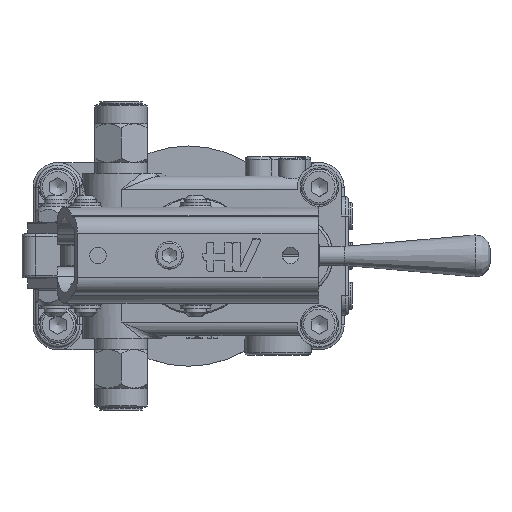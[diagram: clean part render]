
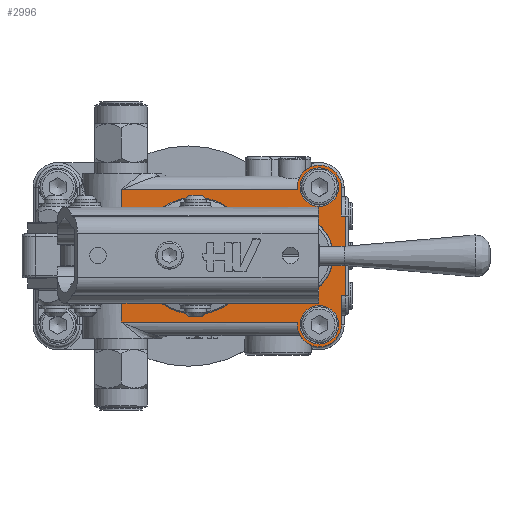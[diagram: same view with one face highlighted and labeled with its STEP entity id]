
A CAD part, top view. The second image highlights one B-rep face of the part: STEP entity #2996.
In plain terms, the highlighted planar face has unit normal (0, 0, 1).
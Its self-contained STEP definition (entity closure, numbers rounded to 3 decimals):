
#2803=CARTESIAN_POINT('',(104.,34.,43.));
#2804=DIRECTION('',(0.0,0.0,1.0));
#2805=DIRECTION('',(1.0,0.0,0.0));
#2806=AXIS2_PLACEMENT_3D('',#2803,#2804,#2805);
#2807=PLANE('',#2806);
#2808=CARTESIAN_POINT('',(113.5,48.5,43.));
#2809=VERTEX_POINT('',#2808);
#2810=CARTESIAN_POINT('',(113.5,19.5,43.));
#2811=VERTEX_POINT('',#2810);
#2812=CARTESIAN_POINT('',(113.5,48.5,43.));
#2813=DIRECTION('',(0.0,-1.0,0.0));
#2814=VECTOR('',#2813,29.);
#2815=LINE('',#2812,#2814);
#2816=EDGE_CURVE('',#2809,#2811,#2815,.T.);
#2817=ORIENTED_EDGE('',*,*,#2816,.F.);
#2818=CARTESIAN_POINT('',(112.,48.5,43.));
#2819=VERTEX_POINT('',#2818);
#2820=CARTESIAN_POINT('',(112.,48.5,43.));
#2821=DIRECTION('',(1.0,0.0,0.0));
#2822=VECTOR('',#2821,1.5);
#2823=LINE('',#2820,#2822);
#2824=EDGE_CURVE('',#2819,#2809,#2823,.T.);
#2825=ORIENTED_EDGE('',*,*,#2824,.F.);
#2826=CARTESIAN_POINT('',(112.0,59.,43.));
#2827=VERTEX_POINT('',#2826);
#2828=CARTESIAN_POINT('',(112.0,59.,43.));
#2829=DIRECTION('',(0.0,-1.0,0.0));
#2830=VECTOR('',#2829,10.5);
#2831=LINE('',#2828,#2830);
#2832=EDGE_CURVE('',#2827,#2819,#2831,.T.);
#2833=ORIENTED_EDGE('',*,*,#2832,.F.);
#2834=CARTESIAN_POINT('',(96.,59.,43.));
#2835=VERTEX_POINT('',#2834);
#2836=CARTESIAN_POINT('',(104.,59.,43.));
#2837=DIRECTION('',(0.0,0.0,-1.0));
#2838=DIRECTION('',(1.0,0.0,0.0));
#2839=AXIS2_PLACEMENT_3D('',#2836,#2837,#2838);
#2840=CIRCLE('',#2839,8.0);
#2841=EDGE_CURVE('',#2835,#2827,#2840,.T.);
#2842=ORIENTED_EDGE('',*,*,#2841,.F.);
#2843=CARTESIAN_POINT('',(96.,58.,43.));
#2844=VERTEX_POINT('',#2843);
#2845=CARTESIAN_POINT('',(96.,58.,43.));
#2846=DIRECTION('',(0.0,1.0,0.0));
#2847=VECTOR('',#2846,1.);
#2848=LINE('',#2845,#2847);
#2849=EDGE_CURVE('',#2844,#2835,#2848,.T.);
#2850=ORIENTED_EDGE('',*,*,#2849,.F.);
#2851=CARTESIAN_POINT('',(32.,58.,43.));
#2852=VERTEX_POINT('',#2851);
#2853=CARTESIAN_POINT('',(96.,58.,43.));
#2854=DIRECTION('',(-1.0,0.0,0.0));
#2855=VECTOR('',#2854,64.);
#2856=LINE('',#2853,#2855);
#2857=EDGE_CURVE('',#2844,#2852,#2856,.T.);
#2858=ORIENTED_EDGE('',*,*,#2857,.T.);
#2859=CARTESIAN_POINT('',(32.,44.122,43.));
#2860=VERTEX_POINT('',#2859);
#2861=CARTESIAN_POINT('',(32.0,44.122,43.0));
#2862=DIRECTION('',(0.0,1.0,0.0));
#2863=VECTOR('',#2862,13.878);
#2864=LINE('',#2861,#2863);
#2865=EDGE_CURVE('',#2860,#2852,#2864,.T.);
#2866=ORIENTED_EDGE('',*,*,#2865,.F.);
#2867=CARTESIAN_POINT('',(33.732,41.0,43.));
#2868=VERTEX_POINT('',#2867);
#2869=CARTESIAN_POINT('',(33.732,41.0,43.));
#2870=CARTESIAN_POINT('',(33.732,41.528,43.));
#2871=CARTESIAN_POINT('',(33.438,42.767,43.));
#2872=CARTESIAN_POINT('',(32.582,43.719,43.));
#2873=CARTESIAN_POINT('',(32.,44.122,43.));
#2874=B_SPLINE_CURVE_WITH_KNOTS('',3,(#2869,#2870,#2871,#2872,#2873),.UNSPECIFIED.,.F.,.U.,(4,1,4),(2.696,2.855,3.066),.UNSPECIFIED.);
#2875=EDGE_CURVE('',#2868,#2860,#2874,.T.);
#2876=ORIENTED_EDGE('',*,*,#2875,.F.);
#2877=CARTESIAN_POINT('',(33.732,27.,43.));
#2878=VERTEX_POINT('',#2877);
#2879=CARTESIAN_POINT('',(33.732,27.,43.));
#2880=DIRECTION('',(0.0,1.0,0.0));
#2881=VECTOR('',#2880,14.);
#2882=LINE('',#2879,#2881);
#2883=EDGE_CURVE('',#2878,#2868,#2882,.T.);
#2884=ORIENTED_EDGE('',*,*,#2883,.F.);
#2885=CARTESIAN_POINT('',(32.,23.878,43.));
#2886=VERTEX_POINT('',#2885);
#2887=CARTESIAN_POINT('',(32.,23.878,43.));
#2888=CARTESIAN_POINT('',(32.433,24.178,43.));
#2889=CARTESIAN_POINT('',(33.336,25.067,43.));
#2890=CARTESIAN_POINT('',(33.732,26.29,43.0));
#2891=CARTESIAN_POINT('',(33.732,27.,43.));
#2892=B_SPLINE_CURVE_WITH_KNOTS('',3,(#2887,#2888,#2889,#2890,#2891),.UNSPECIFIED.,.F.,.U.,(4,1,4),(2.696,2.854,3.065),.UNSPECIFIED.);
#2893=EDGE_CURVE('',#2886,#2878,#2892,.T.);
#2894=ORIENTED_EDGE('',*,*,#2893,.F.);
#2895=CARTESIAN_POINT('',(32.,10.0,43.));
#2896=VERTEX_POINT('',#2895);
#2897=CARTESIAN_POINT('',(32.0,10.,43.0));
#2898=DIRECTION('',(0.0,1.0,0.0));
#2899=VECTOR('',#2898,13.878);
#2900=LINE('',#2897,#2899);
#2901=EDGE_CURVE('',#2896,#2886,#2900,.T.);
#2902=ORIENTED_EDGE('',*,*,#2901,.F.);
#2903=CARTESIAN_POINT('',(96.0,10.0,43.));
#2904=VERTEX_POINT('',#2903);
#2905=CARTESIAN_POINT('',(96.0,10.0,43.));
#2906=DIRECTION('',(-1.0,0.0,0.0));
#2907=VECTOR('',#2906,64.);
#2908=LINE('',#2905,#2907);
#2909=EDGE_CURVE('',#2904,#2896,#2908,.T.);
#2910=ORIENTED_EDGE('',*,*,#2909,.F.);
#2911=CARTESIAN_POINT('',(96.0,9.,43.));
#2912=VERTEX_POINT('',#2911);
#2913=CARTESIAN_POINT('',(96.,9.,43.));
#2914=DIRECTION('',(0.0,1.0,0.0));
#2915=VECTOR('',#2914,1.);
#2916=LINE('',#2913,#2915);
#2917=EDGE_CURVE('',#2912,#2904,#2916,.T.);
#2918=ORIENTED_EDGE('',*,*,#2917,.F.);
#2919=CARTESIAN_POINT('',(112.,9.,43.));
#2920=VERTEX_POINT('',#2919);
#2921=CARTESIAN_POINT('',(104.0,9.,43.));
#2922=DIRECTION('',(0.0,0.0,-1.0));
#2923=DIRECTION('',(-1.0,0.0,0.0));
#2924=AXIS2_PLACEMENT_3D('',#2921,#2922,#2923);
#2925=CIRCLE('',#2924,8.0);
#2926=EDGE_CURVE('',#2920,#2912,#2925,.T.);
#2927=ORIENTED_EDGE('',*,*,#2926,.F.);
#2928=CARTESIAN_POINT('',(112.0,19.5,43.));
#2929=VERTEX_POINT('',#2928);
#2930=CARTESIAN_POINT('',(112.,19.5,43.));
#2931=DIRECTION('',(0.0,-1.0,0.0));
#2932=VECTOR('',#2931,10.5);
#2933=LINE('',#2930,#2932);
#2934=EDGE_CURVE('',#2929,#2920,#2933,.T.);
#2935=ORIENTED_EDGE('',*,*,#2934,.F.);
#2936=CARTESIAN_POINT('',(112.0,19.5,43.));
#2937=DIRECTION('',(1.0,0.0,0.0));
#2938=VECTOR('',#2937,1.5);
#2939=LINE('',#2936,#2938);
#2940=EDGE_CURVE('',#2929,#2811,#2939,.T.);
#2941=ORIENTED_EDGE('',*,*,#2940,.T.);
#2942=EDGE_LOOP('',(#2817,#2825,#2833,#2842,#2850,#2858,#2866,#2876,#2884,#2894,#2902,#2910,#2918,#2927,#2935,#2941));
#2943=FACE_OUTER_BOUND('',#2942,.T.);
#2944=CARTESIAN_POINT('',(83.0,44.198,43.));
#2945=VERTEX_POINT('',#2944);
#2946=CARTESIAN_POINT('',(83.0,23.802,43.));
#2947=VERTEX_POINT('',#2946);
#2948=CARTESIAN_POINT('',(94.,34.0,43.));
#2949=DIRECTION('',(0.0,0.0,-1.0));
#2950=DIRECTION('',(-1.0,0.0,0.0));
#2951=AXIS2_PLACEMENT_3D('',#2948,#2949,#2950);
#2952=CIRCLE('',#2951,15.0);
#2953=EDGE_CURVE('',#2945,#2947,#2952,.T.);
#2954=ORIENTED_EDGE('',*,*,#2953,.T.);
#2955=CARTESIAN_POINT('',(83.0,23.802,43.));
#2956=DIRECTION('',(0.0,1.0,0.0));
#2957=VECTOR('',#2956,20.396);
#2958=LINE('',#2955,#2957);
#2959=EDGE_CURVE('',#2947,#2945,#2958,.T.);
#2960=ORIENTED_EDGE('',*,*,#2959,.T.);
#2961=EDGE_LOOP('',(#2954,#2960));
#2962=FACE_BOUND('',#2961,.T.);
#2963=CARTESIAN_POINT('',(111.0,9.,43.));
#2964=VERTEX_POINT('',#2963);
#2965=CARTESIAN_POINT('',(104.0,9.,43.));
#2966=DIRECTION('',(0.0,0.0,-1.0));
#2967=DIRECTION('',(1.0,0.0,0.0));
#2968=AXIS2_PLACEMENT_3D('',#2965,#2966,#2967);
#2969=CIRCLE('',#2968,7.);
#2970=EDGE_CURVE('',#2964,#2964,#2969,.T.);
#2971=ORIENTED_EDGE('',*,*,#2970,.T.);
#2972=EDGE_LOOP('',(#2971));
#2973=FACE_BOUND('',#2972,.T.);
#2974=CARTESIAN_POINT('',(111.,59.,43.));
#2975=VERTEX_POINT('',#2974);
#2976=CARTESIAN_POINT('',(104.,59.,43.));
#2977=DIRECTION('',(0.0,0.0,-1.0));
#2978=DIRECTION('',(1.0,0.0,0.0));
#2979=AXIS2_PLACEMENT_3D('',#2976,#2977,#2978);
#2980=CIRCLE('',#2979,7.);
#2981=EDGE_CURVE('',#2975,#2975,#2980,.T.);
#2982=ORIENTED_EDGE('',*,*,#2981,.T.);
#2983=EDGE_LOOP('',(#2982));
#2984=FACE_BOUND('',#2983,.T.);
#2985=CARTESIAN_POINT('',(40.034,32.835,43.));
#2986=VERTEX_POINT('',#2985);
#2987=CARTESIAN_POINT('',(59.,34.,43.));
#2988=DIRECTION('',(0.,0.,1.0));
#2989=DIRECTION('',(0.998,0.061,0.));
#2990=AXIS2_PLACEMENT_3D('',#2987,#2988,#2989);
#2991=CIRCLE('',#2990,19.002);
#2992=EDGE_CURVE('',#2986,#2986,#2991,.T.);
#2993=ORIENTED_EDGE('',*,*,#2992,.F.);
#2994=EDGE_LOOP('',(#2993));
#2995=FACE_BOUND('',#2994,.T.);
#2996=ADVANCED_FACE('',(#2943,#2962,#2973,#2984,#2995),#2807,.T.);
